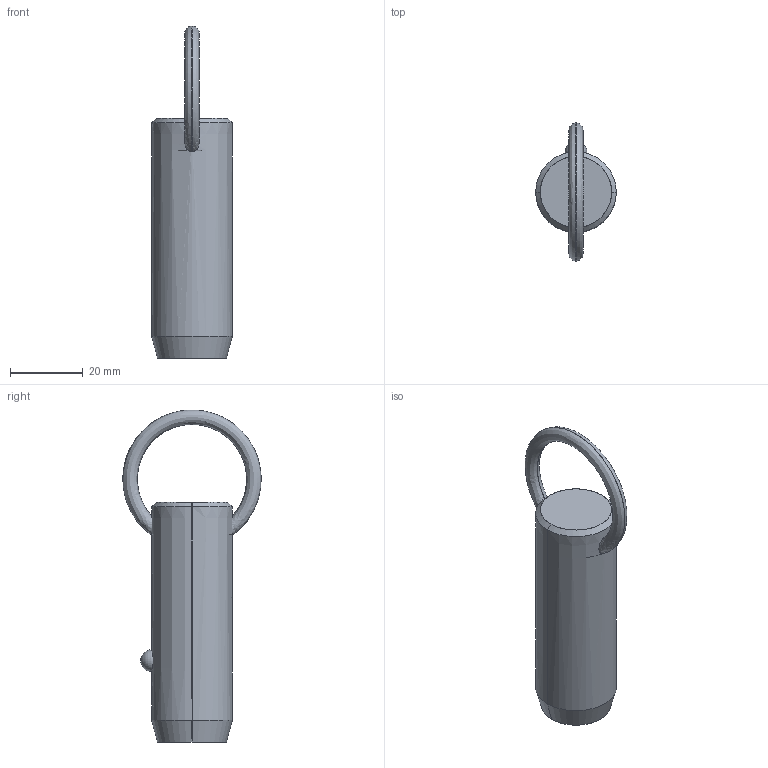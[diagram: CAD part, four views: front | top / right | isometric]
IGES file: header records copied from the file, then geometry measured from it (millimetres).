
Start section: SolidWorks IGES file using analytic representation for surfaces
Global section: file name: C:\Users\liam_\OneDrive\Documents\WORK\Work for WixRoyd\Job Files\J-00019 - Matt Davis CAD Checking\04. CAD Drawings\automotion20190605\P1250.2_v2\P1250.2_v2_20190729_IGES\P1250.087-110.igs; native system: SolidWorks 2017; preprocessor: SolidWorks 2017; author: liam_; date: 190730.000412; units: millimetre
Bounding box: 22.2 x 38.1 x 91.39 mm (x, y, z)
Surface area: 6246.8 mm2 (no closed solid volume)
Topology: 0 solids, 0 shells, 12 faces, 302 edges, 300 vertices
Faces by surface type: revolution 8, bspline 4
